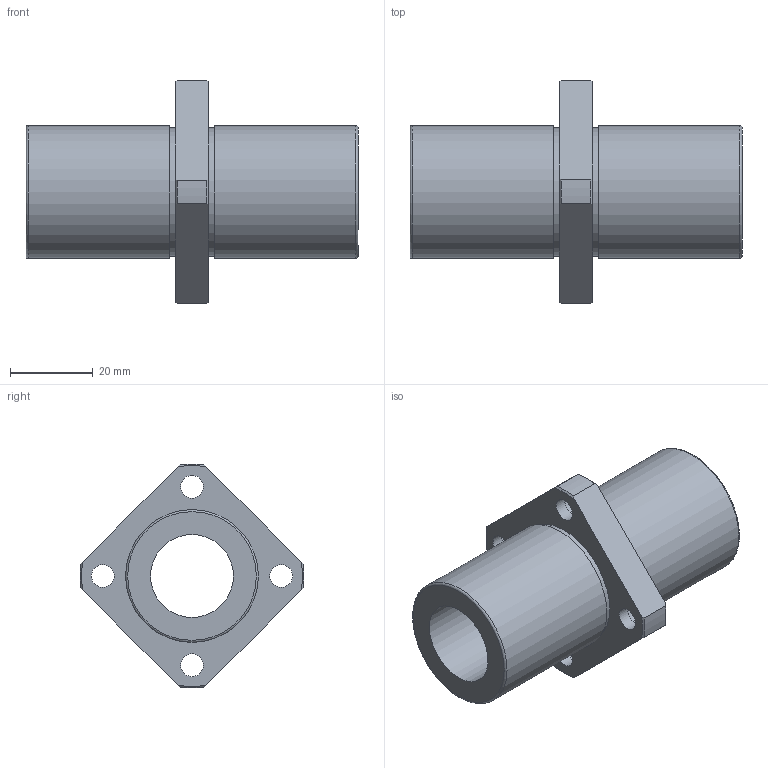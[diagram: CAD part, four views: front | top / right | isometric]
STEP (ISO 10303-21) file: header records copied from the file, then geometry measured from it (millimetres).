
FILE_DESCRIPTION(('STEP AP203'),'1');
FILE_NAME('//192.168.1.1/share/s-4 技術開発/s-4-4_CAD/s-4-4-3_見直し済み/002 修正済み/NFCS-VL/NFCS-VL_TOP/NFCS-20VLUU.step','2022-03-08T04:35:59',(' '),(' '),'Spatial InterOp 3D',' ',' ');
FILE_SCHEMA(('CONFIG_CONTROL_DESIGN'));
Length unit declared in the file: millimetre
Products named in the file (1): 1
Bounding box: 80 x 53.97 x 53.97 mm (x, y, z)
Volume: 44907.3 mm3; surface area: 17093 mm2
Topology: 1 solids, 1 shells, 41 faces, 97 edges, 66 vertices
Faces by surface type: cylinder 17, plane 14, cone 8, torus 2
Full cylindrical faces by diameter (mm): 5.5 x4, 9 x4, 20 x1, 31 x2, 32 x2
Entity records: 1158 total; most frequent: CARTESIAN_POINT 226, DIRECTION 188, ORIENTED_EDGE 152, AXIS2_PLACEMENT_3D 86, EDGE_CURVE 76, EDGE_LOOP 74, VERTEX_POINT 60, FACE_OUTER_BOUND 56
